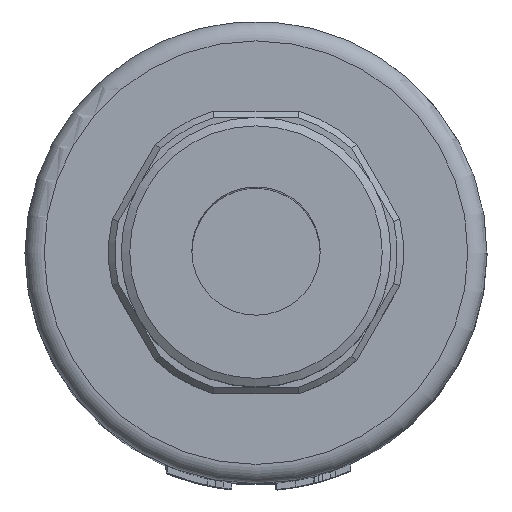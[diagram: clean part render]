
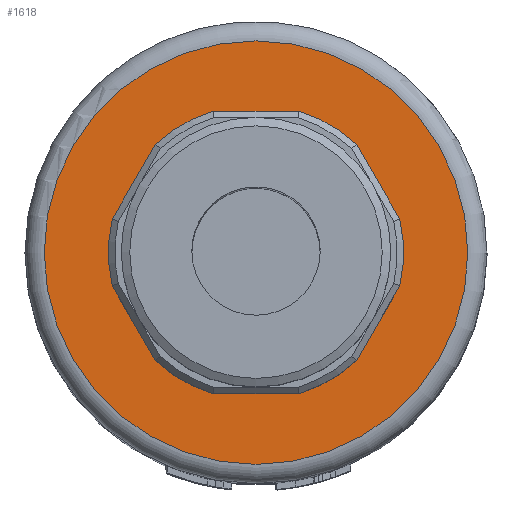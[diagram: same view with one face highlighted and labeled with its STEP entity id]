
A CAD part, top view. The second image highlights one B-rep face of the part: STEP entity #1618.
In plain terms, the highlighted planar face has unit normal (0, 0, 1).
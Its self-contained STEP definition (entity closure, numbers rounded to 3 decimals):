
#141=FACE_BOUND('',#3033,.T.);
#142=FACE_BOUND('',#3034,.T.);
#237=CIRCLE('',#11139,16.5);
#238=CIRCLE('',#11140,8.586);
#1618=ADVANCED_FACE('',(#141,#142),#1972,.F.);
#1972=PLANE('',#11141);
#3033=EDGE_LOOP('',(#5422));
#3034=EDGE_LOOP('',(#5423));
#5422=ORIENTED_EDGE('',*,*,#8884,.T.);
#5423=ORIENTED_EDGE('',*,*,#8885,.T.);
#7401=VERTEX_POINT('',#21444);
#7402=VERTEX_POINT('',#21446);
#8884=EDGE_CURVE('',#7401,#7401,#237,.T.);
#8885=EDGE_CURVE('',#7402,#7402,#238,.T.);
#11139=AXIS2_PLACEMENT_3D('',#21443,#12246,#12247);
#11140=AXIS2_PLACEMENT_3D('',#21445,#12248,#12249);
#11141=AXIS2_PLACEMENT_3D('',#21447,#12250,#12251);
#12246=DIRECTION('',(0.,0.,1.));
#12247=DIRECTION('',(-1.,0.,0.));
#12248=DIRECTION('',(0.,0.,-1.));
#12249=DIRECTION('',(-1.,0.,0.));
#12250=DIRECTION('',(0.,0.,-1.));
#12251=DIRECTION('',(1.,0.,0.));
#21443=CARTESIAN_POINT('',(0.,0.,52.));
#21444=CARTESIAN_POINT('',(-16.5,0.,52.));
#21445=CARTESIAN_POINT('',(0.,0.,52.));
#21446=CARTESIAN_POINT('',(-8.586,0.,52.));
#21447=CARTESIAN_POINT('',(0.,0.,52.));
